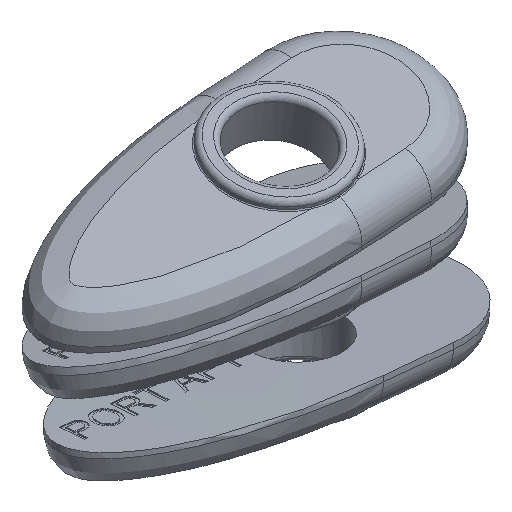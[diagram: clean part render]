
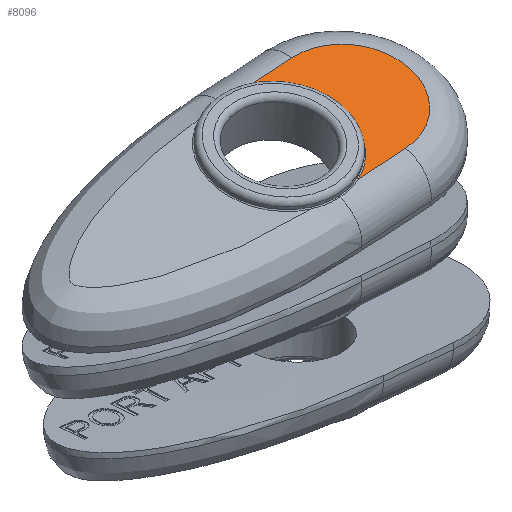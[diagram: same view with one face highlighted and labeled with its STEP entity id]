
A CAD part, isometric view. The second image highlights one B-rep face of the part: STEP entity #8096.
In plain terms, the highlighted planar face has unit normal (-0.065, -0.2, 0.978).
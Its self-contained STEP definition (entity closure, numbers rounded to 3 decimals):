
#52=CIRCLE('',#8473,6.173);
#53=CIRCLE('',#8474,5.745);
#581=FACE_OUTER_BOUND('',#1063,.T.);
#1063=EDGE_LOOP('',(#5965,#5966,#5967,#5968));
#1565=LINE('',#15499,#1974);
#1566=LINE('',#15502,#1975);
#1974=VECTOR('',#8958,1.);
#1975=VECTOR('',#8961,1.);
#3344=VERTEX_POINT('',#15495);
#3345=VERTEX_POINT('',#15496);
#3346=VERTEX_POINT('',#15498);
#3347=VERTEX_POINT('',#15500);
#4341=EDGE_CURVE('',#3344,#3345,#52,.T.);
#4342=EDGE_CURVE('',#3346,#3344,#1565,.T.);
#4343=EDGE_CURVE('',#3347,#3346,#53,.T.);
#4344=EDGE_CURVE('',#3345,#3347,#1566,.T.);
#5965=ORIENTED_EDGE('',*,*,#4341,.F.);
#5966=ORIENTED_EDGE('',*,*,#4342,.F.);
#5967=ORIENTED_EDGE('',*,*,#4343,.F.);
#5968=ORIENTED_EDGE('',*,*,#4344,.F.);
#7809=PLANE('',#8472);
#8096=ADVANCED_FACE('',(#581),#7809,.T.);
#8472=AXIS2_PLACEMENT_3D('',#15494,#8954,#8955);
#8473=AXIS2_PLACEMENT_3D('',#15497,#8956,#8957);
#8474=AXIS2_PLACEMENT_3D('',#15501,#8959,#8960);
#8954=DIRECTION('center_axis',(-0.065,-0.2,0.978));
#8955=DIRECTION('ref_axis',(0.998,0.,0.066));
#8956=DIRECTION('center_axis',(-0.065,-0.2,0.978));
#8957=DIRECTION('ref_axis',(0.998,0.,0.066));
#8958=DIRECTION('',(-0.998,0.,-0.066));
#8959=DIRECTION('center_axis',(0.065,0.2,-0.978));
#8960=DIRECTION('ref_axis',(0.998,0.,0.066));
#8961=DIRECTION('',(0.998,0.,0.066));
#15494=CARTESIAN_POINT('Origin',(1806.861,610.255,73.814));
#15495=CARTESIAN_POINT('',(2693.126,71.055,21.864));
#15496=CARTESIAN_POINT('',(2692.974,82.311,24.16));
#15497=CARTESIAN_POINT('Origin',(2690.797,76.683,22.863));
#15498=CARTESIAN_POINT('',(2697.853,71.055,22.176));
#15499=CARTESIAN_POINT('',(2252.5,71.055,-7.244));
#15500=CARTESIAN_POINT('',(2697.701,82.311,24.473));
#15501=CARTESIAN_POINT('Origin',(2697.825,76.683,23.327));
#15502=CARTESIAN_POINT('',(2255.833,82.311,-4.718));
